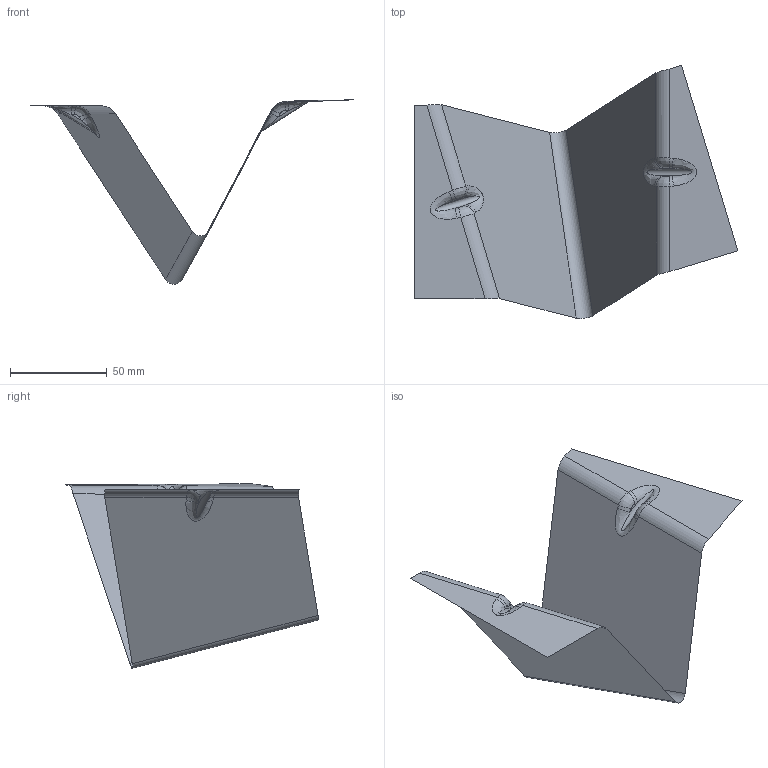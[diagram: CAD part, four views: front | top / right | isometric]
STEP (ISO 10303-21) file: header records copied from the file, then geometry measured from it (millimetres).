
FILE_DESCRIPTION(('CATIA V5 STEP Exchange'),'2;1');
FILE_NAME('C:\_Andres\UNIVERSIDAD\IQS\ASIGNATURAS\DAO\EXF\EXF-16172c\2inicio\Perez_Pellicer_Ej03_v23.stp','2017-03-05T19:32:24+00:00',('none'),('none'),'CATIA Version 5-6 Release 2014 SP1 HF18','CATIA V5 STEP AP203','none');
FILE_SCHEMA(('CONFIG_CONTROL_DESIGN'));
Length unit declared in the file: millimetre
Products named in the file (1): Perez_Pellicer_Ej03_v23
Bounding box: 166.92 x 130.5 x 95.08 mm (x, y, z)
Surface area: 24964.4 mm2 (no closed solid volume)
Topology: 0 solids, 1 shells, 31 faces, 78 edges, 48 vertices
Faces by surface type: cylinder 15, plane 8, bspline 8
Entity records: 2443 total; most frequent: CARTESIAN_POINT 1770, ORIENTED_EDGE 140, DIRECTION 90, EDGE_CURVE 78, VERTEX_POINT 48, VECTOR 40, LINE 40, ADVANCED_FACE 31
